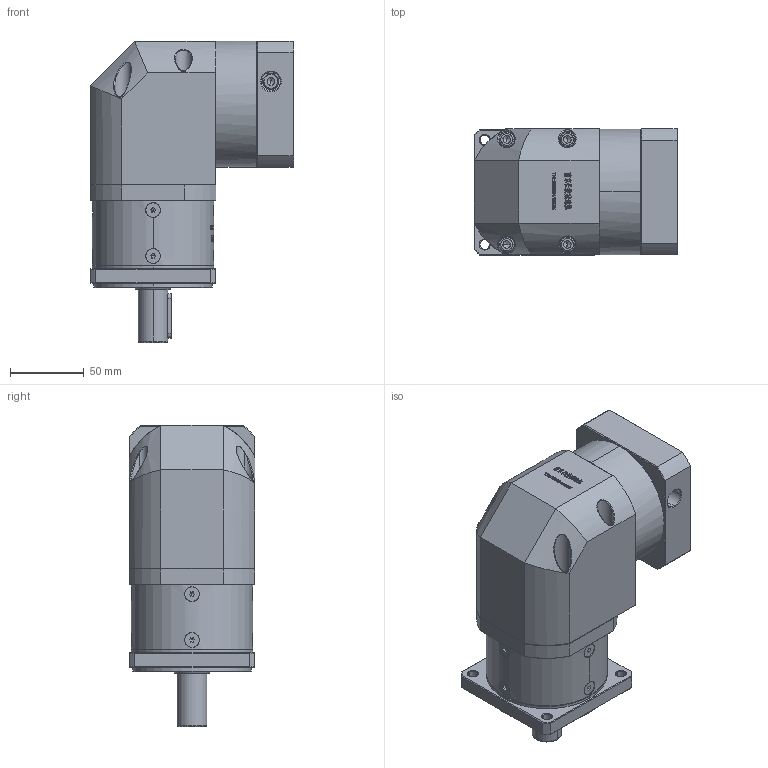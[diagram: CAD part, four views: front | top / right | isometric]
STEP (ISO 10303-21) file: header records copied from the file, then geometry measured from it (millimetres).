
FILE_DESCRIPTION (( 'STEP AP214' ), '1' );
FILE_NAME ('ZF80-D20-L1-14-60-75-M6.step', '2022-05-08T11:56:11', ( '' ), ( 'Microsoft' ), 'SwSTEP 2.0', 'SolidWorks 2016', '' );
FILE_SCHEMA (( 'AUTOMOTIVE_DESIGN' ));
Length unit declared in the file: millimetre
Products named in the file (1): ZF80-D20-L1-14-60-75-M6
Bounding box: 137.6 x 85 x 203.5 mm (x, y, z)
Volume: 1260809.5 mm3; surface area: 134894.4 mm2
Topology: 13 solids, 13 shells, 3071 faces, 8063 edges, 5139 vertices
Faces by surface type: plane 1638, bspline 624, cylinder 442, cone 353, torus 14
Entity records: 165307 total; most frequent: CARTESIAN_POINT 61562, ORIENTED_EDGE 16034, DIRECTION 12059, EDGE_CURVE 8017, VERTEX_POINT 5139, VECTOR 5019, LINE 5019, AXIS2_PLACEMENT_3D 3520
